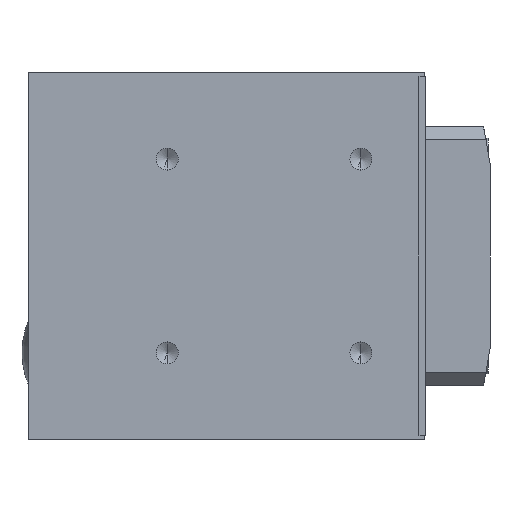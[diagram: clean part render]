
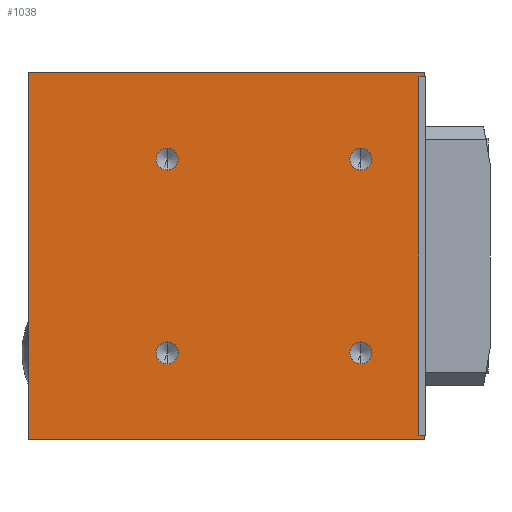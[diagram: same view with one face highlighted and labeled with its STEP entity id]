
A CAD part, front view. The second image highlights one B-rep face of the part: STEP entity #1038.
In plain terms, the highlighted planar face has unit normal (0, -1, 0).
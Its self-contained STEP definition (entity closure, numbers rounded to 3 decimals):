
#820 = VERTEX_POINT ( 'NONE', #3010 ) ;
#822 = EDGE_CURVE ( 'NONE', #820, #823, #3009, .T. ) ;
#823 = VERTEX_POINT ( 'NONE', #3004 ) ;
#855 = VERTEX_POINT ( 'NONE', #3070 ) ;
#857 = EDGE_CURVE ( 'NONE', #855, #858, #3069, .T. ) ;
#858 = VERTEX_POINT ( 'NONE', #3125 ) ;
#864 = VERTEX_POINT ( 'NONE', #3110 ) ;
#866 = EDGE_CURVE ( 'NONE', #864, #867, #3109, .T. ) ;
#867 = VERTEX_POINT ( 'NONE', #3104 ) ;
#902 = EDGE_CURVE ( 'NONE', #930, #903, #3166, .T. ) ;
#903 = VERTEX_POINT ( 'NONE', #3162 ) ;
#930 = VERTEX_POINT ( 'NONE', #3240 ) ;
#940 = EDGE_LOOP ( 'NONE', ( #1023, #1025 ) ) ;
#974 = VERTEX_POINT ( 'NONE', #3347 ) ;
#976 = EDGE_CURVE ( 'NONE', #977, #974, #3346, .T. ) ;
#977 = VERTEX_POINT ( 'NONE', #3342 ) ;
#1014 = ORIENTED_EDGE ( 'NONE', *, *, #1015, .F. ) ;
#1015 = EDGE_CURVE ( 'NONE', #1016, #1098, #3400, .T. ) ;
#1016 = VERTEX_POINT ( 'NONE', #3392 ) ;
#1017 = ORIENTED_EDGE ( 'NONE', *, *, #1018, .F. ) ;
#1018 = EDGE_CURVE ( 'NONE', #1030, #1016, #3391, .T. ) ;
#1023 = ORIENTED_EDGE ( 'NONE', *, *, #1024, .F. ) ;
#1024 = EDGE_CURVE ( 'NONE', #903, #930, #3448, .T. ) ;
#1025 = ORIENTED_EDGE ( 'NONE', *, *, #902, .F. ) ;
#1026 = EDGE_LOOP ( 'NONE', ( #1027, #1031, #1034, #1037, #1095, #1096, #1014, #1017 ) ) ;
#1027 = ORIENTED_EDGE ( 'NONE', *, *, #1028, .F. ) ;
#1028 = EDGE_CURVE ( 'NONE', #1029, #1030, #3443, .T. ) ;
#1029 = VERTEX_POINT ( 'NONE', #3439 ) ;
#1030 = VERTEX_POINT ( 'NONE', #3438 ) ;
#1031 = ORIENTED_EDGE ( 'NONE', *, *, #1032, .T. ) ;
#1032 = EDGE_CURVE ( 'NONE', #1029, #1033, #3437, .T. ) ;
#1033 = VERTEX_POINT ( 'NONE', #3433 ) ;
#1034 = ORIENTED_EDGE ( 'NONE', *, *, #1035, .F. ) ;
#1035 = EDGE_CURVE ( 'NONE', #1036, #1033, #3432, .T. ) ;
#1036 = VERTEX_POINT ( 'NONE', #3428 ) ;
#1037 = ORIENTED_EDGE ( 'NONE', *, *, #1094, .F. ) ;
#1038 = ADVANCED_FACE ( 'NONE', ( #3427, #3426, #3425, #3424, #3423 ), #3422, .F. ) ;
#1039 = EDGE_LOOP ( 'NONE', ( #1040, #1042 ) ) ;
#1040 = ORIENTED_EDGE ( 'NONE', *, *, #1041, .F. ) ;
#1041 = EDGE_CURVE ( 'NONE', #823, #820, #3482, .T. ) ;
#1042 = ORIENTED_EDGE ( 'NONE', *, *, #822, .F. ) ;
#1043 = EDGE_LOOP ( 'NONE', ( #1044, #1046 ) ) ;
#1044 = ORIENTED_EDGE ( 'NONE', *, *, #1045, .F. ) ;
#1045 = EDGE_CURVE ( 'NONE', #867, #864, #3478, .T. ) ;
#1046 = ORIENTED_EDGE ( 'NONE', *, *, #866, .F. ) ;
#1047 = EDGE_LOOP ( 'NONE', ( #1048, #1050 ) ) ;
#1048 = ORIENTED_EDGE ( 'NONE', *, *, #1049, .F. ) ;
#1049 = EDGE_CURVE ( 'NONE', #858, #855, #3473, .T. ) ;
#1050 = ORIENTED_EDGE ( 'NONE', *, *, #857, .F. ) ;
#1094 = EDGE_CURVE ( 'NONE', #977, #1036, #3577, .T. ) ;
#1095 = ORIENTED_EDGE ( 'NONE', *, *, #976, .T. ) ;
#1096 = ORIENTED_EDGE ( 'NONE', *, *, #1097, .T. ) ;
#1097 = EDGE_CURVE ( 'NONE', #974, #1098, #3573, .T. ) ;
#1098 = VERTEX_POINT ( 'NONE', #3569 ) ;
#3004 = CARTESIAN_POINT ( 'NONE',  ( 103., 0., 23.6 ) ) ;
#3005 = DIRECTION ( 'NONE',  ( 0., 0., -1. ) ) ;
#3006 = DIRECTION ( 'NONE',  ( 0., -1., 0. ) ) ;
#3007 = CARTESIAN_POINT ( 'NONE',  ( 103., 0., 27. ) ) ;
#3008 = AXIS2_PLACEMENT_3D ( 'NONE', #3007, #3006, #3005 ) ;
#3009 = CIRCLE ( 'NONE', #3008, 3.4 ) ;
#3010 = CARTESIAN_POINT ( 'NONE',  ( 103., 0., 30.4 ) ) ;
#3068 = AXIS2_PLACEMENT_3D ( 'NONE', #3128, #3127, #3126 ) ;
#3069 = CIRCLE ( 'NONE', #3068, 3.4 ) ;
#3070 = CARTESIAN_POINT ( 'NONE',  ( 43., 0., 90.4 ) ) ;
#3104 = CARTESIAN_POINT ( 'NONE',  ( 103., 0., 83.6 ) ) ;
#3105 = DIRECTION ( 'NONE',  ( 0., 0., -1. ) ) ;
#3106 = DIRECTION ( 'NONE',  ( 0., -1., 0. ) ) ;
#3107 = CARTESIAN_POINT ( 'NONE',  ( 103., 0., 87. ) ) ;
#3108 = AXIS2_PLACEMENT_3D ( 'NONE', #3107, #3106, #3105 ) ;
#3109 = CIRCLE ( 'NONE', #3108, 3.4 ) ;
#3110 = CARTESIAN_POINT ( 'NONE',  ( 103., 0., 90.4 ) ) ;
#3125 = CARTESIAN_POINT ( 'NONE',  ( 43., 0., 83.6 ) ) ;
#3126 = DIRECTION ( 'NONE',  ( 0., 0., -1. ) ) ;
#3127 = DIRECTION ( 'NONE',  ( 0., -1., 0. ) ) ;
#3128 = CARTESIAN_POINT ( 'NONE',  ( 43., 0., 87. ) ) ;
#3162 = CARTESIAN_POINT ( 'NONE',  ( 43., 0., 23.6 ) ) ;
#3163 = DIRECTION ( 'NONE',  ( 0., 0., -1. ) ) ;
#3164 = DIRECTION ( 'NONE',  ( 0., -1., 0. ) ) ;
#3165 = AXIS2_PLACEMENT_3D ( 'NONE', #3172, #3164, #3163 ) ;
#3166 = CIRCLE ( 'NONE', #3165, 3.4 ) ;
#3172 = CARTESIAN_POINT ( 'NONE',  ( 43., 0., 27. ) ) ;
#3240 = CARTESIAN_POINT ( 'NONE',  ( 43., 0., 30.4 ) ) ;
#3342 = CARTESIAN_POINT ( 'NONE',  ( 0., 0., 114. ) ) ;
#3343 = DIRECTION ( 'NONE',  ( 0., 0., -1. ) ) ;
#3344 = VECTOR ( 'NONE', #3343, 1000. ) ;
#3345 = CARTESIAN_POINT ( 'NONE',  ( 0., 0., 114. ) ) ;
#3346 = LINE ( 'NONE', #3345, #3344 ) ;
#3347 = CARTESIAN_POINT ( 'NONE',  ( 0., 0., 0. ) ) ;
#3388 = DIRECTION ( 'NONE',  ( 1., 0., 0. ) ) ;
#3389 = VECTOR ( 'NONE', #3388, 1000. ) ;
#3390 = CARTESIAN_POINT ( 'NONE',  ( 121., 0., 1.5 ) ) ;
#3391 = LINE ( 'NONE', #3390, #3389 ) ;
#3392 = CARTESIAN_POINT ( 'NONE',  ( 122.7, 0., 1.5 ) ) ;
#3393 = DIRECTION ( 'NONE',  ( 0., 0., -1. ) ) ;
#3394 = VECTOR ( 'NONE', #3393, 1000. ) ;
#3395 = CARTESIAN_POINT ( 'NONE',  ( 122.7, 0., 114. ) ) ;
#3400 = LINE ( 'NONE', #3395, #3394 ) ;
#3417 = DIRECTION ( 'NONE',  ( 0., 0., 1. ) ) ;
#3418 = DIRECTION ( 'NONE',  ( 0., 1., 0. ) ) ;
#3419 = CARTESIAN_POINT ( 'NONE',  ( 0., 0., 114. ) ) ;
#3420 = AXIS2_PLACEMENT_3D ( 'NONE', #3419, #3418, #3417 ) ;
#3421 = CARTESIAN_POINT ( 'NONE',  ( 103., 0., 27. ) ) ;
#3422 = PLANE ( 'NONE',  #3420 ) ;
#3423 = FACE_OUTER_BOUND ( 'NONE', #1026, .T. ) ;
#3424 = FACE_BOUND ( 'NONE', #940, .T. ) ;
#3425 = FACE_BOUND ( 'NONE', #1047, .T. ) ;
#3426 = FACE_BOUND ( 'NONE', #1043, .T. ) ;
#3427 = FACE_BOUND ( 'NONE', #1039, .T. ) ;
#3428 = CARTESIAN_POINT ( 'NONE',  ( 122.7, 0., 114. ) ) ;
#3429 = DIRECTION ( 'NONE',  ( 0., 0., -1. ) ) ;
#3430 = VECTOR ( 'NONE', #3429, 1000. ) ;
#3431 = CARTESIAN_POINT ( 'NONE',  ( 122.7, 0., 114. ) ) ;
#3432 = LINE ( 'NONE', #3431, #3430 ) ;
#3433 = CARTESIAN_POINT ( 'NONE',  ( 122.7, 0., 112.5 ) ) ;
#3434 = DIRECTION ( 'NONE',  ( 1., 0., 0. ) ) ;
#3435 = VECTOR ( 'NONE', #3434, 1000. ) ;
#3436 = CARTESIAN_POINT ( 'NONE',  ( 121., 0., 112.5 ) ) ;
#3437 = LINE ( 'NONE', #3436, #3435 ) ;
#3438 = CARTESIAN_POINT ( 'NONE',  ( 121., 0., 1.5 ) ) ;
#3439 = CARTESIAN_POINT ( 'NONE',  ( 121., 0., 112.5 ) ) ;
#3440 = DIRECTION ( 'NONE',  ( 0., 0., -1. ) ) ;
#3441 = VECTOR ( 'NONE', #3440, 1000. ) ;
#3442 = CARTESIAN_POINT ( 'NONE',  ( 121., 0., 112.5 ) ) ;
#3443 = LINE ( 'NONE', #3442, #3441 ) ;
#3444 = DIRECTION ( 'NONE',  ( 0., 0., -1. ) ) ;
#3445 = DIRECTION ( 'NONE',  ( 0., -1., 0. ) ) ;
#3446 = CARTESIAN_POINT ( 'NONE',  ( 43., 0., 27. ) ) ;
#3447 = AXIS2_PLACEMENT_3D ( 'NONE', #3446, #3445, #3444 ) ;
#3448 = CIRCLE ( 'NONE', #3447, 3.4 ) ;
#3469 = DIRECTION ( 'NONE',  ( 0., 0., -1. ) ) ;
#3470 = DIRECTION ( 'NONE',  ( 0., -1., 0. ) ) ;
#3471 = CARTESIAN_POINT ( 'NONE',  ( 43., 0., 87. ) ) ;
#3472 = AXIS2_PLACEMENT_3D ( 'NONE', #3471, #3470, #3469 ) ;
#3473 = CIRCLE ( 'NONE', #3472, 3.4 ) ;
#3474 = DIRECTION ( 'NONE',  ( 0., 0., -1. ) ) ;
#3475 = DIRECTION ( 'NONE',  ( 0., -1., 0. ) ) ;
#3476 = CARTESIAN_POINT ( 'NONE',  ( 103., 0., 87. ) ) ;
#3477 = AXIS2_PLACEMENT_3D ( 'NONE', #3476, #3475, #3474 ) ;
#3478 = CIRCLE ( 'NONE', #3477, 3.4 ) ;
#3479 = DIRECTION ( 'NONE',  ( 0., 0., -1. ) ) ;
#3480 = DIRECTION ( 'NONE',  ( 0., -1., 0. ) ) ;
#3481 = AXIS2_PLACEMENT_3D ( 'NONE', #3421, #3480, #3479 ) ;
#3482 = CIRCLE ( 'NONE', #3481, 3.4 ) ;
#3569 = CARTESIAN_POINT ( 'NONE',  ( 122.7, 0., 0. ) ) ;
#3570 = DIRECTION ( 'NONE',  ( 1., 0., 0. ) ) ;
#3571 = VECTOR ( 'NONE', #3570, 1000. ) ;
#3572 = CARTESIAN_POINT ( 'NONE',  ( 0., 0., 0. ) ) ;
#3573 = LINE ( 'NONE', #3572, #3571 ) ;
#3574 = DIRECTION ( 'NONE',  ( 1., 0., 0. ) ) ;
#3575 = VECTOR ( 'NONE', #3574, 1000. ) ;
#3576 = CARTESIAN_POINT ( 'NONE',  ( 0., 0., 114. ) ) ;
#3577 = LINE ( 'NONE', #3576, #3575 ) ;
